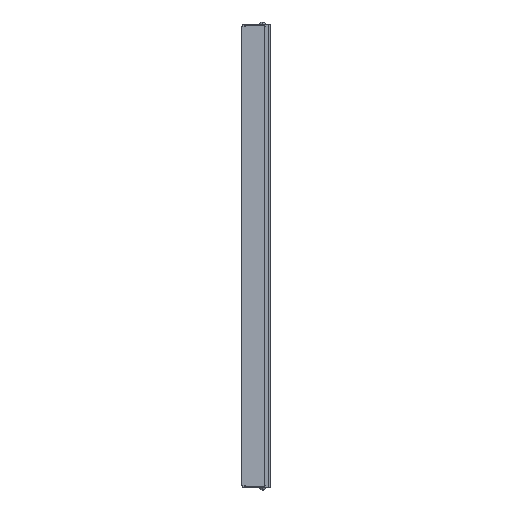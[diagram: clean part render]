
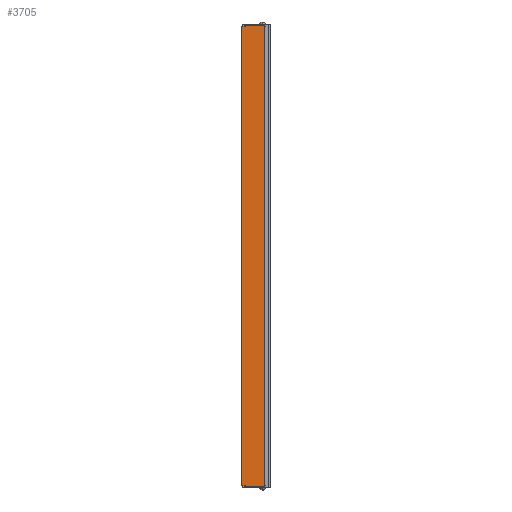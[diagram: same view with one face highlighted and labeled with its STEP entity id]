
A CAD part, left-side view. The second image highlights one B-rep face of the part: STEP entity #3705.
In plain terms, the highlighted planar face has unit normal (-1, 0, 0).
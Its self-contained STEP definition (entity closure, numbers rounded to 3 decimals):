
#189=DIRECTION('',(0.,1.,0.));
#190=VECTOR('',#189,3.3);
#191=CARTESIAN_POINT('',(-19.,13.2,207.));
#192=LINE('',#191,#190);
#389=DIRECTION('',(0.,0.,-1.));
#390=VECTOR('',#389,1.);
#391=CARTESIAN_POINT('',(-19.,13.2,-207.));
#392=LINE('',#391,#390);
#401=DIRECTION('',(0.,1.,0.));
#402=VECTOR('',#401,3.3);
#403=CARTESIAN_POINT('',(-19.,13.2,-207.));
#404=LINE('',#403,#402);
#405=DIRECTION('',(0.,0.,1.));
#406=VECTOR('',#405,1.);
#407=CARTESIAN_POINT('',(-19.,13.2,207.));
#408=LINE('',#407,#406);
#413=DIRECTION('',(0.,0.,1.));
#414=VECTOR('',#413,416.);
#415=CARTESIAN_POINT('',(-19.,-4.3,-208.));
#416=LINE('',#415,#414);
#961=DIRECTION('',(0.,-1.,0.));
#962=VECTOR('',#961,17.5);
#963=CARTESIAN_POINT('',(-19.,13.2,-208.));
#964=LINE('',#963,#962);
#2117=DIRECTION('',(0.,1.,0.));
#2118=VECTOR('',#2117,17.5);
#2119=CARTESIAN_POINT('',(-19.,-4.3,208.));
#2120=LINE('',#2119,#2118);
#2321=DIRECTION('',(0.,0.,-1.));
#2322=VECTOR('',#2321,414.);
#2323=CARTESIAN_POINT('',(-19.,16.5,207.));
#2324=LINE('',#2323,#2322);
#2357=CARTESIAN_POINT('',(-19.,16.5,-207.));
#2358=VERTEX_POINT('',#2357);
#2367=CARTESIAN_POINT('',(-19.,16.5,207.));
#2368=VERTEX_POINT('',#2367);
#2429=CARTESIAN_POINT('',(-19.,13.2,208.));
#2430=VERTEX_POINT('',#2429);
#2635=CARTESIAN_POINT('',(-19.,-4.3,208.));
#2637=VERTEX_POINT('',#2635);
#2717=CARTESIAN_POINT('',(-19.,13.2,207.));
#2719=VERTEX_POINT('',#2717);
#2775=CARTESIAN_POINT('',(-19.,13.2,-208.));
#2777=VERTEX_POINT('',#2775);
#2781=CARTESIAN_POINT('',(-19.,-4.3,-208.));
#2782=VERTEX_POINT('',#2781);
#3011=CARTESIAN_POINT('',(-19.,13.2,-207.));
#3012=VERTEX_POINT('',#3011);
#3686=CARTESIAN_POINT('',(-19.,16.5,-207.));
#3687=DIRECTION('',(-1.,0.,0.));
#3688=DIRECTION('',(0.,-1.,0.));
#3689=AXIS2_PLACEMENT_3D('',#3686,#3687,#3688);
#3690=PLANE('',#3689);
#3692=ORIENTED_EDGE('',*,*,#3691,.F.);
#3694=ORIENTED_EDGE('',*,*,#3693,.F.);
#3695=ORIENTED_EDGE('',*,*,#3677,.F.);
#3696=ORIENTED_EDGE('',*,*,#3126,.T.);
#3698=ORIENTED_EDGE('',*,*,#3697,.F.);
#3699=ORIENTED_EDGE('',*,*,#3356,.F.);
#3700=ORIENTED_EDGE('',*,*,#3522,.T.);
#3702=ORIENTED_EDGE('',*,*,#3701,.F.);
#3703=EDGE_LOOP('',(#3692,#3694,#3695,#3696,#3698,#3699,#3700,#3702));
#3704=FACE_OUTER_BOUND('',#3703,.F.);
#3126=EDGE_CURVE('',#3012,#2358,#404,.T.);
#3356=EDGE_CURVE('',#2719,#2368,#192,.T.);
#3522=EDGE_CURVE('',#2719,#2430,#408,.T.);
#3677=EDGE_CURVE('',#3012,#2777,#392,.T.);
#3691=EDGE_CURVE('',#2782,#2637,#416,.T.);
#3693=EDGE_CURVE('',#2777,#2782,#964,.T.);
#3697=EDGE_CURVE('',#2368,#2358,#2324,.T.);
#3701=EDGE_CURVE('',#2637,#2430,#2120,.T.);
#3705=ADVANCED_FACE('',(#3704),#3690,.T.);
